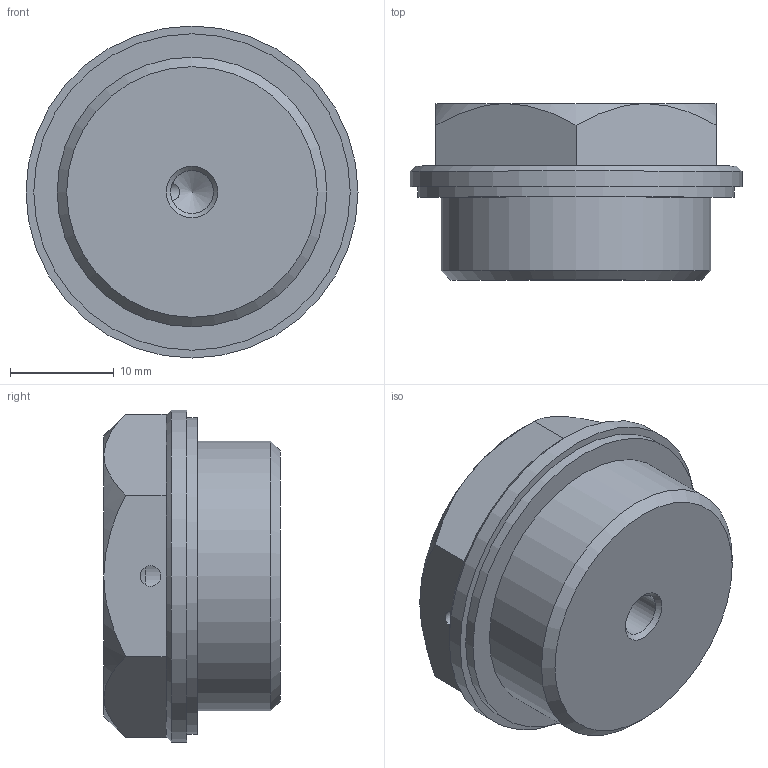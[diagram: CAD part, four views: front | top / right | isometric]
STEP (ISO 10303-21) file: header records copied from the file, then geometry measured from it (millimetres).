
FILE_DESCRIPTION( ( 'STEP AP203' ), '1' );
FILE_NAME( 'C:/Temp/Ganter_Step_05_03_2020/data/3_5/gn742/gn742_2/Threaded plug GN 742-32-M26x1,5-OS-2.stp', '2020-03-12T13:39:43', ( 'License CC BY-ND 4.0' ), ( 'CADENAS' ), ' ', 'PARTsolutions', ' ' );
FILE_SCHEMA( ( 'CONFIG_CONTROL_DESIGN' ) );
Length unit declared in the file: millimetre
Products named in the file (1): _Threaded plug GN 742-32-M26x1,5-OS-2
Bounding box: 32 x 17 x 32 mm (x, y, z)
Volume: 10073.9 mm3; surface area: 3237.3 mm2
Topology: 1 solids, 1 shells, 37 faces, 80 edges, 46 vertices
Faces by surface type: plane 22, cone 10, cylinder 5
Full cylindrical faces by diameter (mm): 2 x1, 4.134 x1, 26 x1, 30.5 x1, 32 x1
Entity records: 1056 total; most frequent: CARTESIAN_POINT 274, DIRECTION 158, ORIENTED_EDGE 134, AXIS2_PLACEMENT_3D 67, EDGE_CURVE 67, EDGE_LOOP 49, VERTEX_POINT 43, FACE_OUTER_BOUND 42
